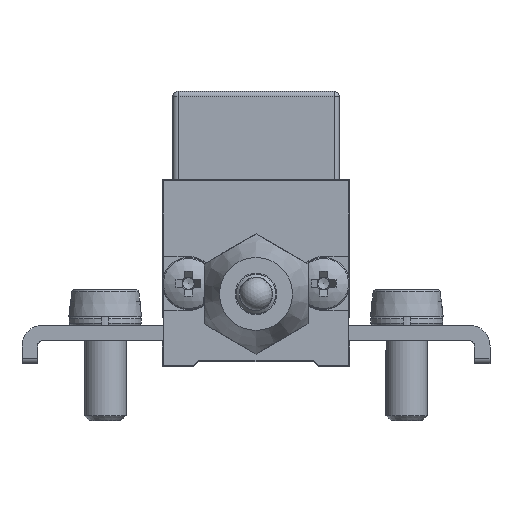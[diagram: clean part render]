
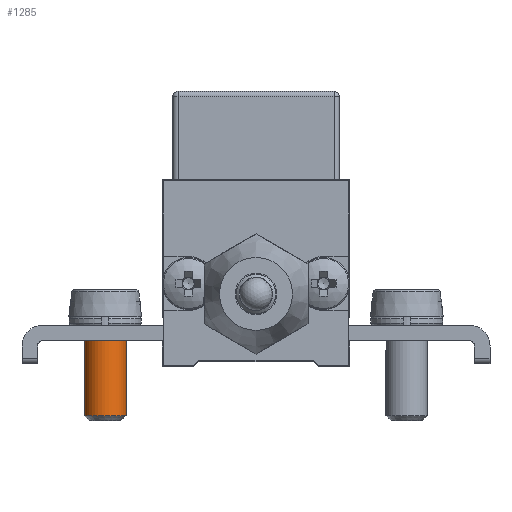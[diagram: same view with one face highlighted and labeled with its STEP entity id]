
A CAD part, front view. The second image highlights one B-rep face of the part: STEP entity #1285.
In plain terms, the highlighted cylindrical face has radius 2 mm (diameter 4 mm), a full revolution.
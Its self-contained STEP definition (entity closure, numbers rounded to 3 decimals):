
#1285 = ADVANCED_FACE( '', ( #2771, #2772 ), #2773, .T. );
#2771 = FACE_OUTER_BOUND( '', #7061, .T. );
#2772 = FACE_OUTER_BOUND( '', #7062, .T. );
#2773 = CYLINDRICAL_SURFACE( '', #7063, 2. );
#7061 = EDGE_LOOP( '', ( #10297 ) );
#7062 = EDGE_LOOP( '', ( #10298 ) );
#7063 = AXIS2_PLACEMENT_3D( '', #10299, #10300, #10301 );
#10297 = ORIENTED_EDGE( '', *, *, #12299, .T. );
#10298 = ORIENTED_EDGE( '', *, *, #12235, .T. );
#10299 = CARTESIAN_POINT( '', ( -14.5, 11., 32.8 ) );
#10300 = DIRECTION( '', ( 0., 0., -1. ) );
#10301 = DIRECTION( '', ( 1., 0., 0. ) );
#12235 = EDGE_CURVE( '', #15184, #15184, #15185, .T. );
#12299 = EDGE_CURVE( '', #15298, #15298, #15299, .F. );
#15184 = VERTEX_POINT( '', #20366 );
#15185 = CIRCLE( '', #20367, 2. );
#15298 = VERTEX_POINT( '', #20668 );
#15299 = CIRCLE( '', #20669, 2. );
#20366 = CARTESIAN_POINT( '', ( -12.5, 11., 3.8 ) );
#20367 = AXIS2_PLACEMENT_3D( '', #25902, #25903, #25904 );
#20668 = CARTESIAN_POINT( '', ( -16.5, 11., -4.7 ) );
#20669 = AXIS2_PLACEMENT_3D( '', #25974, #25975, #25976 );
#25902 = CARTESIAN_POINT( '', ( -14.5, 11., 3.8 ) );
#25903 = DIRECTION( '', ( 0., 0., -1. ) );
#25904 = DIRECTION( '', ( 1., 0., 0. ) );
#25974 = CARTESIAN_POINT( '', ( -14.5, 11., -4.7 ) );
#25975 = DIRECTION( '', ( 0., 0., -1. ) );
#25976 = DIRECTION( '', ( -1., 0., 0. ) );
